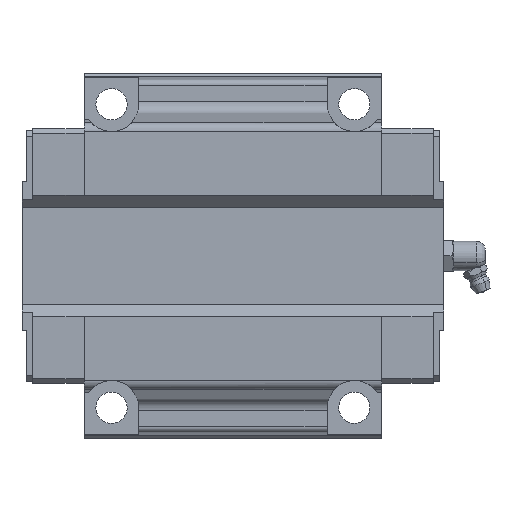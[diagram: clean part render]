
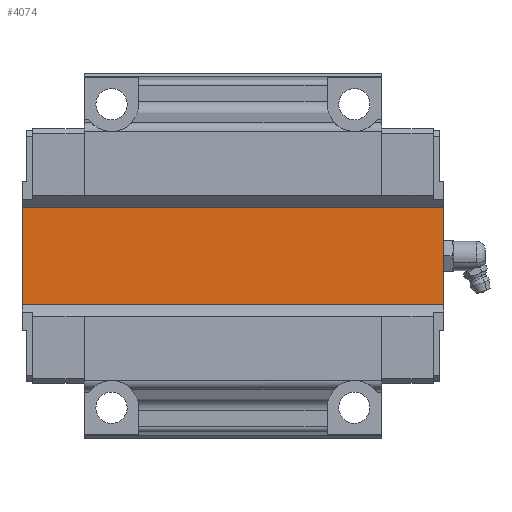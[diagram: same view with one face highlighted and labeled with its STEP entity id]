
A CAD part, front view. The second image highlights one B-rep face of the part: STEP entity #4074.
In plain terms, the highlighted planar face has unit normal (0, -1, 0).
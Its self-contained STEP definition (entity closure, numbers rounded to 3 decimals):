
#2161=CARTESIAN_POINT('Vertex',(69.5,28.,17.)) ;
#2164=CARTESIAN_POINT('Line Origine',(69.5,28.,0.)) ;
#2168=CARTESIAN_POINT('Vertex',(69.5,28.,-17.)) ;
#3819=CARTESIAN_POINT('Vertex',(-69.5,28.,-17.)) ;
#3822=CARTESIAN_POINT('Line Origine',(-69.5,28.,0.)) ;
#3826=CARTESIAN_POINT('Vertex',(-69.5,28.,17.)) ;
#4046=CARTESIAN_POINT('Line Origine',(0.,28.,17.)) ;
#4058=CARTESIAN_POINT('Axis2P3D Location',(0.,28.,-17.)) ;
#4063=CARTESIAN_POINT('Line Origine',(0.,28.,-17.)) ;
#2165=DIRECTION('Vector Direction',(0.,0.,1.)) ;
#3823=DIRECTION('Vector Direction',(0.,0.,1.)) ;
#4047=DIRECTION('Vector Direction',(1.,0.,0.)) ;
#4059=DIRECTION('Axis2P3D Direction',(0.,-1.,0.)) ;
#4060=DIRECTION('Axis2P3D XDirection',(0.,0.,1.)) ;
#4064=DIRECTION('Vector Direction',(1.,0.,0.)) ;
#4061=AXIS2_PLACEMENT_3D('Plane Axis2P3D',#4058,#4059,#4060) ;
#4069=ORIENTED_EDGE('',*,*,#2170,.T.) ;
#4070=ORIENTED_EDGE('',*,*,#4050,.F.) ;
#4071=ORIENTED_EDGE('',*,*,#3828,.F.) ;
#4072=ORIENTED_EDGE('',*,*,#4067,.T.) ;
#2166=VECTOR('Line Direction',#2165,1.) ;
#3824=VECTOR('Line Direction',#3823,1.) ;
#4048=VECTOR('Line Direction',#4047,1.) ;
#4065=VECTOR('Line Direction',#4064,1.) ;
#4074=ADVANCED_FACE('HSV45CSS_BLOCK',(#4073),#4062,.T.) ;
#2170=EDGE_CURVE('',#2169,#2162,#2167,.T.) ;
#3828=EDGE_CURVE('',#3820,#3827,#3825,.T.) ;
#4050=EDGE_CURVE('',#3827,#2162,#4049,.T.) ;
#4067=EDGE_CURVE('',#3820,#2169,#4066,.T.) ;
#4068=EDGE_LOOP('',(#4069,#4070,#4071,#4072)) ;
#4073=FACE_OUTER_BOUND('',#4068,.T.) ;
#2167=LINE('Line',#2164,#2166) ;
#3825=LINE('Line',#3822,#3824) ;
#4049=LINE('Line',#4046,#4048) ;
#4066=LINE('Line',#4063,#4065) ;
#4062=PLANE('',#4061) ;
#2162=VERTEX_POINT('',#2161) ;
#2169=VERTEX_POINT('',#2168) ;
#3820=VERTEX_POINT('',#3819) ;
#3827=VERTEX_POINT('',#3826) ;
